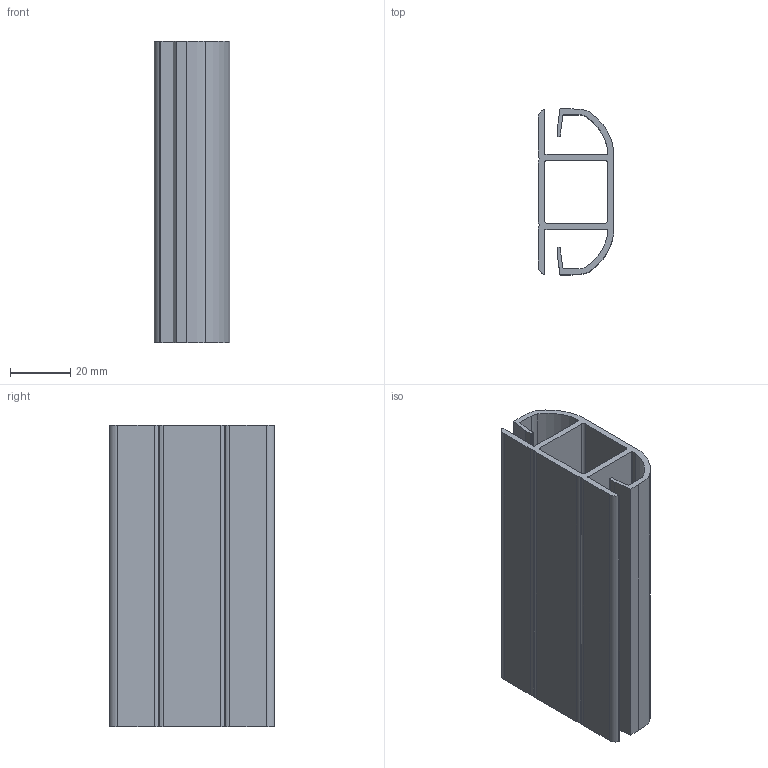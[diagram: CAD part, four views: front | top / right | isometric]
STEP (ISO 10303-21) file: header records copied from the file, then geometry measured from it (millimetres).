
FILE_DESCRIPTION (( 'STEP AP203' ), '1' );
FILE_NAME ('013.025.003.STEP', '2020-07-22T08:29:43', ( '' ), ( '' ), 'SwSTEP 2.0', 'SolidWorks 2018', '' );
FILE_SCHEMA (( 'CONFIG_CONTROL_DESIGN' ));
Length unit declared in the file: millimetre
Products named in the file (1): 013.025.003
Bounding box: 25 x 55 x 100 mm (x, y, z)
Volume: 35510.3 mm3; surface area: 37576.3 mm2
Topology: 1 solids, 1 shells, 60 faces, 174 edges, 116 vertices
Faces by surface type: plane 30, cylinder 26, bspline 4
Entity records: 2095 total; most frequent: CARTESIAN_POINT 403, ORIENTED_EDGE 348, DIRECTION 332, EDGE_CURVE 174, VERTEX_POINT 116, VECTOR 114, LINE 114, AXIS2_PLACEMENT_3D 109
